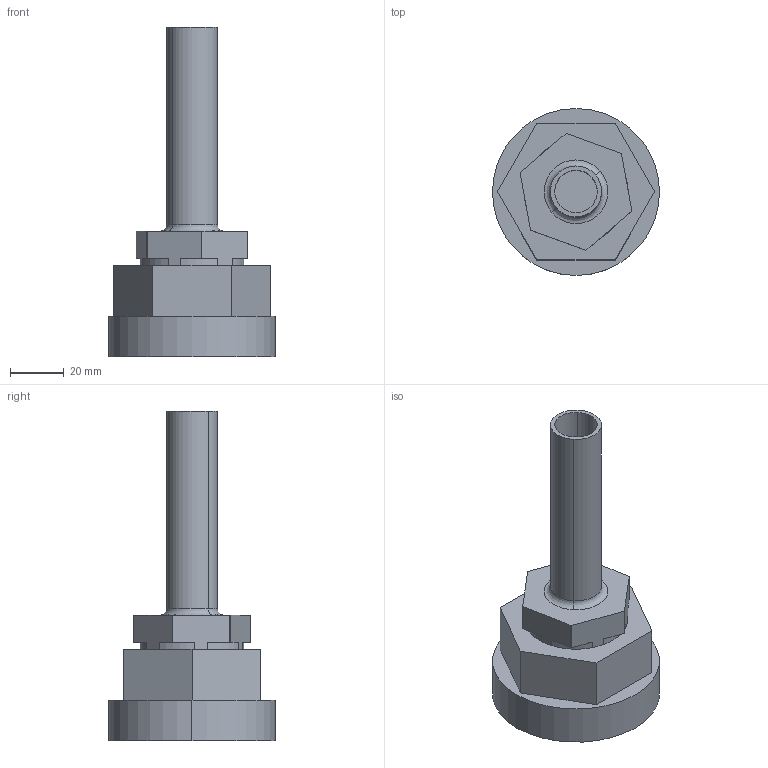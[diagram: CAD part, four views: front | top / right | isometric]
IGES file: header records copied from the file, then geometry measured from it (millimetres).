
Start section: SolidWorks IGES file using analytic representation for surfaces
Global section: file name: S:\Product Visuals\Pumps to be Defeatured\140 fittings\FITTING ASSEMBLIES\DEFEATURED\top-out\12-tube-out-top-mount.IGS; native system: SolidWorks 2012; preprocessor: SolidWorks 2012; author: rachel.dressel; date: 121203.151347; units: inch
Bounding box: 62.33 x 62.33 x 123.09 mm (x, y, z)
Volume: 109886.5 mm3; surface area: 31459.7 mm2
Topology: 2 solids, 2 shells, 46 faces, 112 edges, 74 vertices
Faces by surface type: plane 26, revolution 20
